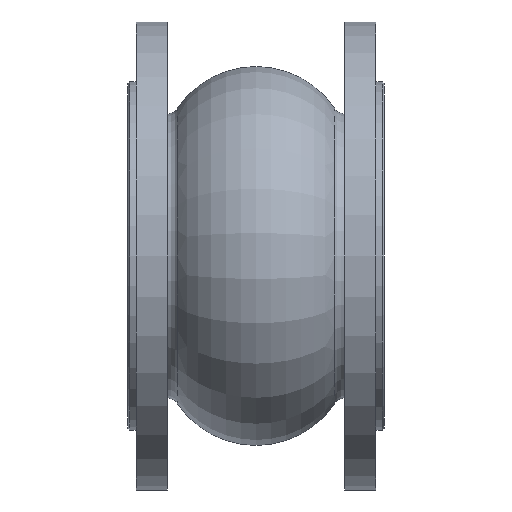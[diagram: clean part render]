
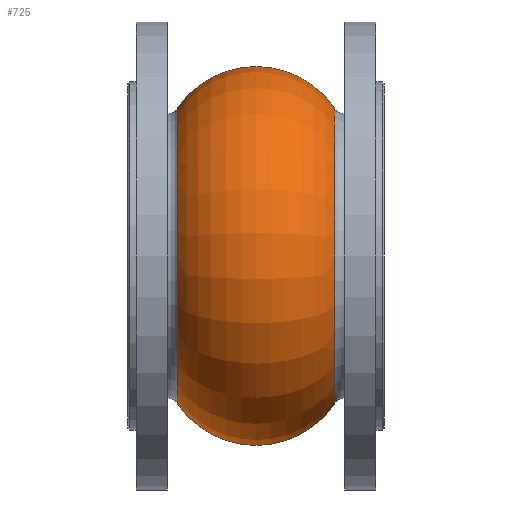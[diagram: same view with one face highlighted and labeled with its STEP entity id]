
A CAD part, front view. The second image highlights one B-rep face of the part: STEP entity #725.
In plain terms, the highlighted toroidal (fillet/blend) face has major radius 57.633 mm and minor radius 57.735 mm.
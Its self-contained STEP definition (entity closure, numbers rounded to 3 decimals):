
#427 = CARTESIAN_POINT ( 'NONE',  ( 48.009, 0., -89.703 ) ) ;
#454 = CARTESIAN_POINT ( 'NONE',  ( 48.009, 0., 89.703 ) ) ;
#592 = EDGE_CURVE ( 'NONE', #1844, #616, #1080, .T. ) ;
#614 = EDGE_CURVE ( 'NONE', #1857, #627, #1064, .T. ) ;
#616 = VERTEX_POINT ( 'NONE', #1017 ) ;
#627 = VERTEX_POINT ( 'NONE', #1093 ) ;
#714 = ORIENTED_EDGE ( 'NONE', *, *, #614, .T. ) ;
#725 = ADVANCED_FACE ( 'NONE', ( #1231 ), #1233, .T. ) ;
#734 = EDGE_LOOP ( 'NONE', ( #751, #740, #714, #738 ) ) ;
#738 = ORIENTED_EDGE ( 'NONE', *, *, #1496, .F. ) ;
#740 = ORIENTED_EDGE ( 'NONE', *, *, #1511, .T. ) ;
#751 = ORIENTED_EDGE ( 'NONE', *, *, #592, .F. ) ;
#1008 = DIRECTION ( 'NONE',  ( 0., 0., 1. ) ) ;
#1009 = DIRECTION ( 'NONE',  ( 0., 1., 0. ) ) ;
#1010 = CARTESIAN_POINT ( 'NONE',  ( 0., 0., -57.632 ) ) ;
#1011 = AXIS2_PLACEMENT_3D ( 'NONE', #1010, #1009, #1008 ) ;
#1017 = CARTESIAN_POINT ( 'NONE',  ( -48.009, 0., -89.703 ) ) ;
#1050 = DIRECTION ( 'NONE',  ( 0., 0., -1. ) ) ;
#1051 = DIRECTION ( 'NONE',  ( 0., -1., 0. ) ) ;
#1052 = CARTESIAN_POINT ( 'NONE',  ( 0., 0., 57.632 ) ) ;
#1064 = CIRCLE ( 'NONE', #1070, 57.735 ) ;
#1070 = AXIS2_PLACEMENT_3D ( 'NONE', #1052, #1051, #1050 ) ;
#1080 = CIRCLE ( 'NONE', #1011, 57.735 ) ;
#1093 = CARTESIAN_POINT ( 'NONE',  ( -48.009, 0., 89.703 ) ) ;
#1231 = FACE_OUTER_BOUND ( 'NONE', #734, .T. ) ;
#1233 = TOROIDAL_SURFACE ( 'NONE', #1255, 57.632, 57.735 ) ;
#1253 = DIRECTION ( 'NONE',  ( 0., 0., 1. ) ) ;
#1255 = AXIS2_PLACEMENT_3D ( 'NONE', #1277, #1275, #1253 ) ;
#1275 = DIRECTION ( 'NONE',  ( -1., 0., 0. ) ) ;
#1277 = CARTESIAN_POINT ( 'NONE',  ( 0., 0., 0. ) ) ;
#1496 = EDGE_CURVE ( 'NONE', #616, #627, #2105, .T. ) ;
#1511 = EDGE_CURVE ( 'NONE', #1844, #1857, #2160, .T. ) ;
#1844 = VERTEX_POINT ( 'NONE', #427 ) ;
#1857 = VERTEX_POINT ( 'NONE', #454 ) ;
#2105 = CIRCLE ( 'NONE', #2127, 89.703 ) ;
#2114 = DIRECTION ( 'NONE',  ( -1., 0., 0. ) ) ;
#2126 = DIRECTION ( 'NONE',  ( 0., 0., 1. ) ) ;
#2127 = AXIS2_PLACEMENT_3D ( 'NONE', #2130, #2114, #2126 ) ;
#2130 = CARTESIAN_POINT ( 'NONE',  ( -48.009, 0., 0. ) ) ;
#2148 = DIRECTION ( 'NONE',  ( 0., 0., 1. ) ) ;
#2154 = CARTESIAN_POINT ( 'NONE',  ( 48.009, 0., 0. ) ) ;
#2155 = DIRECTION ( 'NONE',  ( -1., 0., 0. ) ) ;
#2156 = AXIS2_PLACEMENT_3D ( 'NONE', #2154, #2155, #2148 ) ;
#2160 = CIRCLE ( 'NONE', #2156, 89.703 ) ;
